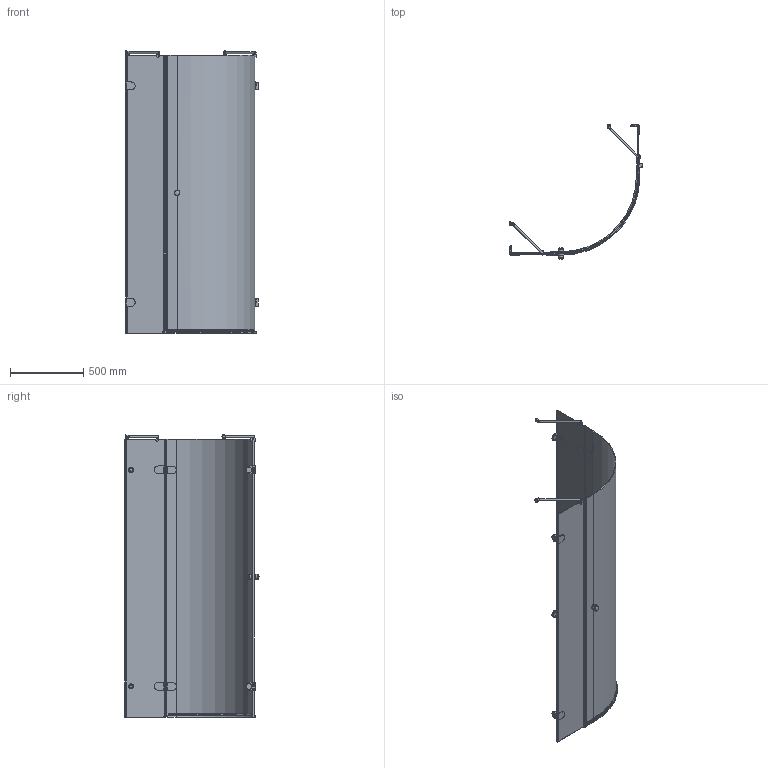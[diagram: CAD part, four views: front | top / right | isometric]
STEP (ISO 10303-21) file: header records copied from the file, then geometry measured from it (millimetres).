
FILE_DESCRIPTION(/* description */ (''),/* implementation_level */ '2;1');
FILE_NAME(/* name */ 'E:\Работа\Сергей\Душевые кабинки\! Работа\777\LUX MELIORI GK-001\LUX MELIORI GK-001 правая модель\LUX MELIORI GK-001 ПРАВАЯ-3D.stp',/* time_stamp */ '2018-04-19T20:46:22+03:00',/* author */ ('PC'),/* organization */ (''),/* preprocessor_version */ 'ST-DEVELOPER v15.2',/* originating_system */ 'Autodesk Inventor 2014',/* authorisation */ '');
FILE_SCHEMA (('AUTOMOTIVE_DESIGN { 1 0 10303 214 3 1 1 }'));
Length unit declared in the file: millimetre
Products named in the file (1): LUX MELIORI GK-001 ПРАВАЯ-3D
Bounding box: 905 x 918 x 1931.5 mm (x, y, z)
Volume: 18349956.4 mm3; surface area: 6251799.7 mm2
Topology: 5 solids, 5 shells, 584 faces, 1567 edges, 1008 vertices
Faces by surface type: plane 309, cylinder 196, torus 47, bspline 13, sphere 12, cone 7
Full cylindrical faces by diameter (mm): 12 x2, 15 x2, 20 x4, 26 x2, 30 x4, 35 x4, 38 x4, 40 x4
Entity records: 19349 total; most frequent: CARTESIAN_POINT 4236, DIRECTION 3075, ORIENTED_EDGE 2958, EDGE_CURVE 1479, AXIS2_PLACEMENT_3D 1083, VERTEX_POINT 976, LINE 909, VECTOR 909
